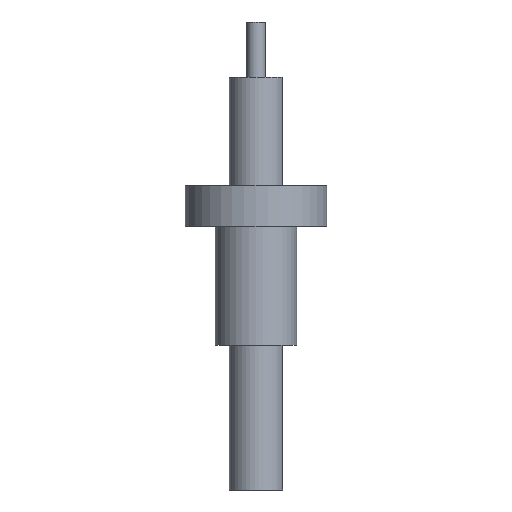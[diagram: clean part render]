
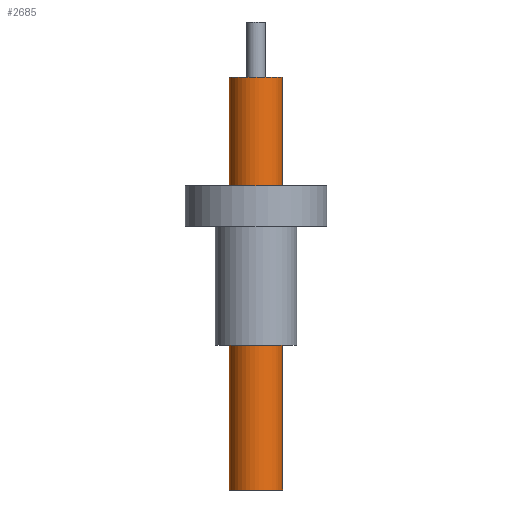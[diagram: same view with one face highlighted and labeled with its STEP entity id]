
A CAD part, front view. The second image highlights one B-rep face of the part: STEP entity #2685.
In plain terms, the highlighted cylindrical face has radius 4.661 mm (diameter 9.322 mm), a partial arc.
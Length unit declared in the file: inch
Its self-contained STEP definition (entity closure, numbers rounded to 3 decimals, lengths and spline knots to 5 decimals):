
#61 = VECTOR ( 'NONE', #2290, 39.37008 ) ;
#77 = DIRECTION ( 'NONE',  ( 1., 0., 0. ) ) ;
#126 = CIRCLE ( 'NONE', #398, 0.1835 ) ;
#207 = ORIENTED_EDGE ( 'NONE', *, *, #359, .F. ) ;
#261 = CYLINDRICAL_SURFACE ( 'NONE', #906, 0.1835 ) ;
#347 = DIRECTION ( 'NONE',  ( 1., 0., 0. ) ) ;
#359 = EDGE_CURVE ( 'NONE', #1549, #2135, #592, .T. ) ;
#398 = AXIS2_PLACEMENT_3D ( 'NONE', #1717, #2826, #347 ) ;
#521 = EDGE_CURVE ( 'NONE', #1549, #2016, #2488, .T. ) ;
#563 = CARTESIAN_POINT ( 'NONE',  ( -0.1835, 0., 0. ) ) ;
#592 = LINE ( 'NONE', #563, #3520 ) ;
#647 = CARTESIAN_POINT ( 'NONE',  ( 0.1835, 0., 2.85 ) ) ;
#781 = DIRECTION ( 'NONE',  ( 1., 0., 0. ) ) ;
#800 = CARTESIAN_POINT ( 'NONE',  ( 0., 0., 0. ) ) ;
#906 = AXIS2_PLACEMENT_3D ( 'NONE', #800, #2754, #781 ) ;
#948 = CARTESIAN_POINT ( 'NONE',  ( 0.1835, 0., 0. ) ) ;
#950 = AXIS2_PLACEMENT_3D ( 'NONE', #3076, #2803, #77 ) ;
#1370 = CARTESIAN_POINT ( 'NONE',  ( -0.1835, 0., 2.85 ) ) ;
#1472 = LINE ( 'NONE', #1497, #61 ) ;
#1497 = CARTESIAN_POINT ( 'NONE',  ( 0.1835, 0., 0. ) ) ;
#1549 = VERTEX_POINT ( 'NONE', #2672 ) ;
#1717 = CARTESIAN_POINT ( 'NONE',  ( 0., 0., 2.85 ) ) ;
#2012 = EDGE_LOOP ( 'NONE', ( #207, #2394, #3116, #2246 ) ) ;
#2016 = VERTEX_POINT ( 'NONE', #948 ) ;
#2135 = VERTEX_POINT ( 'NONE', #1370 ) ;
#2154 = DIRECTION ( 'NONE',  ( 0., 0., 1. ) ) ;
#2222 = VERTEX_POINT ( 'NONE', #647 ) ;
#2246 = ORIENTED_EDGE ( 'NONE', *, *, #2770, .T. ) ;
#2290 = DIRECTION ( 'NONE',  ( 0., 0., 1. ) ) ;
#2394 = ORIENTED_EDGE ( 'NONE', *, *, #521, .T. ) ;
#2488 = CIRCLE ( 'NONE', #950, 0.1835 ) ;
#2672 = CARTESIAN_POINT ( 'NONE',  ( -0.1835, 0., 0. ) ) ;
#2685 = ADVANCED_FACE ( 'NONE', ( #2720 ), #261, .T. ) ;
#2720 = FACE_OUTER_BOUND ( 'NONE', #2012, .T. ) ;
#2754 = DIRECTION ( 'NONE',  ( 0., 0., 1. ) ) ;
#2770 = EDGE_CURVE ( 'NONE', #2222, #2135, #126, .T. ) ;
#2803 = DIRECTION ( 'NONE',  ( 0., 0., 1. ) ) ;
#2826 = DIRECTION ( 'NONE',  ( 0., 0., -1. ) ) ;
#3046 = EDGE_CURVE ( 'NONE', #2016, #2222, #1472, .T. ) ;
#3076 = CARTESIAN_POINT ( 'NONE',  ( 0., 0., 0. ) ) ;
#3116 = ORIENTED_EDGE ( 'NONE', *, *, #3046, .T. ) ;
#3520 = VECTOR ( 'NONE', #2154, 39.37008 ) ;
